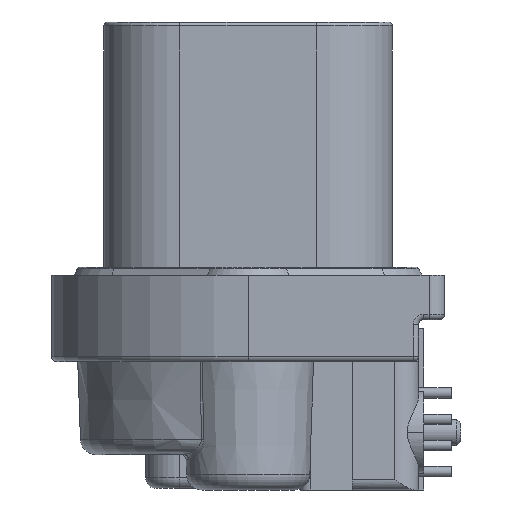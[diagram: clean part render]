
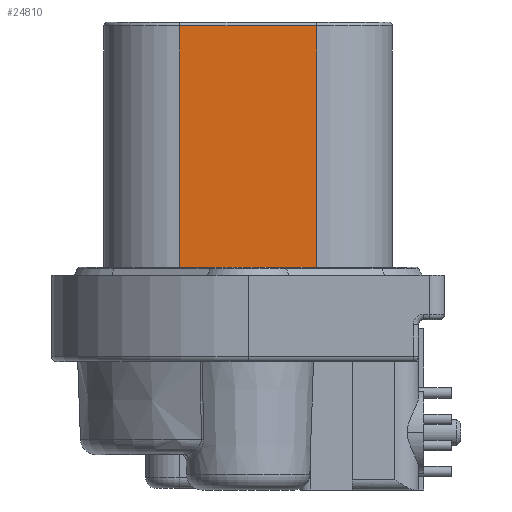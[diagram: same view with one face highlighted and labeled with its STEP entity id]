
A CAD part, left-side view. The second image highlights one B-rep face of the part: STEP entity #24810.
In plain terms, the highlighted planar face has unit normal (-1, 0, 0).
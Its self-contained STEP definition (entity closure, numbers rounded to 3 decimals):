
#643=DIRECTION('',(0.,0.,-1.));
#644=VECTOR('',#643,24.384);
#645=CARTESIAN_POINT('',(-34.29,6.629,-0.381));
#646=LINE('',#645,#644);
#658=DIRECTION('',(0.,0.,-1.));
#659=VECTOR('',#658,24.384);
#660=CARTESIAN_POINT('',(-34.29,-6.629,-0.381));
#661=LINE('',#660,#659);
#665=DIRECTION('',(0.,-1.,0.));
#666=VECTOR('',#665,13.259);
#667=CARTESIAN_POINT('',(-34.29,6.629,-0.381));
#668=LINE('',#667,#666);
#955=DIRECTION('',(0.,1.,0.));
#956=VECTOR('',#955,13.259);
#957=CARTESIAN_POINT('',(-34.29,-6.629,-24.765));
#958=LINE('',#957,#956);
#21387=CARTESIAN_POINT('',(-34.29,6.629,-0.381));
#21389=VERTEX_POINT('',#21387);
#21392=CARTESIAN_POINT('',(-34.29,-6.629,-0.381));
#21393=VERTEX_POINT('',#21392);
#21716=CARTESIAN_POINT('',(-34.29,-6.629,-24.765));
#21717=VERTEX_POINT('',#21716);
#21718=CARTESIAN_POINT('',(-34.29,6.629,-24.765));
#21719=VERTEX_POINT('',#21718);
#24797=CARTESIAN_POINT('',(-34.29,-6.629,0.));
#24798=DIRECTION('',(1.,0.,0.));
#24799=DIRECTION('',(0.,1.,0.));
#24800=AXIS2_PLACEMENT_3D('',#24797,#24798,#24799);
#24801=PLANE('',#24800);
#24803=ORIENTED_EDGE('',*,*,#24802,.T.);
#24805=ORIENTED_EDGE('',*,*,#24804,.T.);
#24806=ORIENTED_EDGE('',*,*,#24788,.F.);
#24807=ORIENTED_EDGE('',*,*,#24679,.T.);
#24808=EDGE_LOOP('',(#24803,#24805,#24806,#24807));
#24809=FACE_OUTER_BOUND('',#24808,.F.);
#24810=ADVANCED_FACE('',(#24809),#24801,.F.);
#24679=EDGE_CURVE('',#21389,#21393,#668,.T.);
#24788=EDGE_CURVE('',#21389,#21719,#646,.T.);
#24802=EDGE_CURVE('',#21393,#21717,#661,.T.);
#24804=EDGE_CURVE('',#21717,#21719,#958,.T.);
